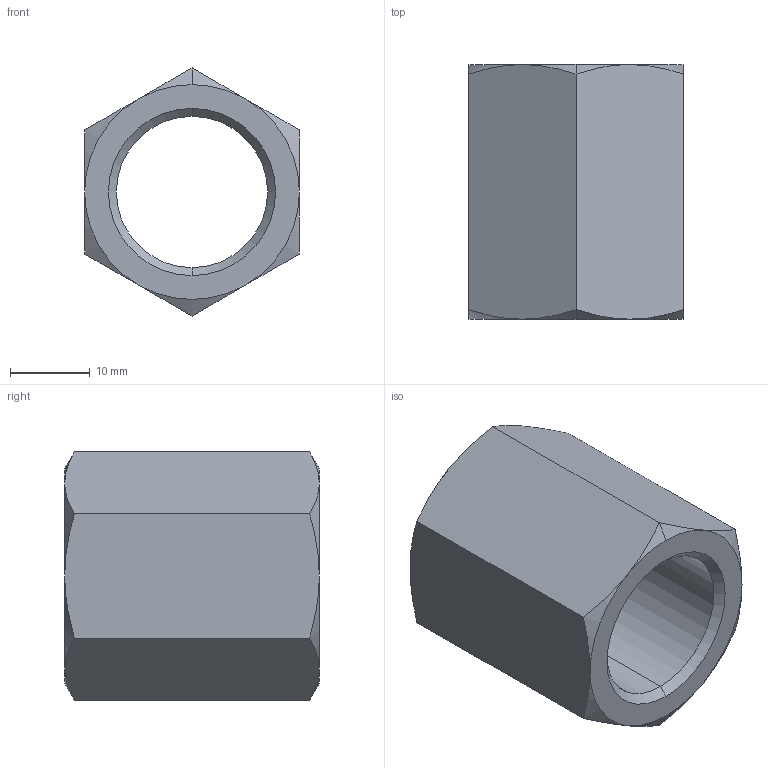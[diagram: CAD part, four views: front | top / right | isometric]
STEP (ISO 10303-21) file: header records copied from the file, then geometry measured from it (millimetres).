
FILE_DESCRIPTION (( 'STEP AP203' ), '1' );
FILE_NAME ('BXH02 B4B4 00.STEP', '2018-10-27T11:59:48', ( '' ), ( '' ), 'SwSTEP 2.0', 'SolidWorks 2013', '' );
FILE_SCHEMA (( 'CONFIG_CONTROL_DESIGN' ));
Length unit declared in the file: millimetre
Products named in the file (1): BXH02 B4B4 00
Bounding box: 27 x 32 x 31.18 mm (x, y, z)
Volume: 11025.2 mm3; surface area: 5472.2 mm2
Topology: 1 solids, 1 shells, 28 faces, 60 edges, 34 vertices
Faces by surface type: cone 18, plane 8, cylinder 2
Entity records: 927 total; most frequent: CARTESIAN_POINT 275, ORIENTED_EDGE 120, DIRECTION 116, EDGE_CURVE 60, AXIS2_PLACEMENT_3D 51, VERTEX_POINT 34, EDGE_LOOP 30, FACE_OUTER_BOUND 28
